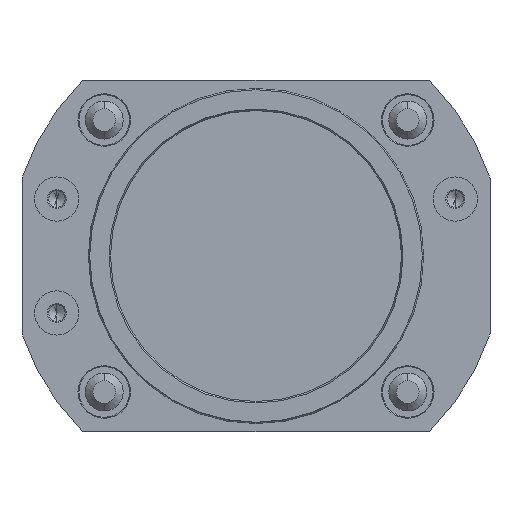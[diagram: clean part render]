
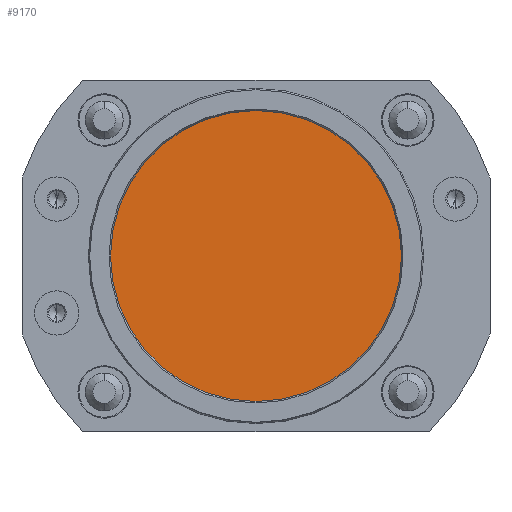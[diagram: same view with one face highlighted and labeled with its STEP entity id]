
A CAD part, front view. The second image highlights one B-rep face of the part: STEP entity #9170.
In plain terms, the highlighted planar face has unit normal (0, -1, 0).
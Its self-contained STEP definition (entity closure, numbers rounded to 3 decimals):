
#160 = ORIENTED_EDGE ( 'NONE', *, *, #7715, .F. ) ;
#164 = EDGE_CURVE ( 'NONE', #7716, #8705, #254, .T. ) ;
#166 = ORIENTED_EDGE ( 'NONE', *, *, #164, .F. ) ;
#232 = DIRECTION ( 'NONE',  ( 0., 0., 1. ) ) ;
#233 = DIRECTION ( 'NONE',  ( 0., 1., 0. ) ) ;
#234 = AXIS2_PLACEMENT_3D ( 'NONE', #247, #233, #232 ) ;
#247 = CARTESIAN_POINT ( 'NONE',  ( 0., 3., 0. ) ) ;
#254 = CIRCLE ( 'NONE', #234, 23. ) ;
#1182 = CARTESIAN_POINT ( 'NONE',  ( 0., 3., 23. ) ) ;
#1183 = DIRECTION ( 'NONE',  ( 0., 0., 1. ) ) ;
#1184 = DIRECTION ( 'NONE',  ( 0., 1., 0. ) ) ;
#1185 = CARTESIAN_POINT ( 'NONE',  ( 0., 3., 0. ) ) ;
#1195 = CIRCLE ( 'NONE', #1199, 23. ) ;
#1199 = AXIS2_PLACEMENT_3D ( 'NONE', #1185, #1184, #1183 ) ;
#3291 = CARTESIAN_POINT ( 'NONE',  ( 0., 3., -23. ) ) ;
#4361 = FACE_OUTER_BOUND ( 'NONE', #7774, .T. ) ;
#4391 = PLANE ( 'NONE',  #4426 ) ;
#4416 = DIRECTION ( 'NONE',  ( 0., 0., -1. ) ) ;
#4417 = DIRECTION ( 'NONE',  ( 0., -1., 0. ) ) ;
#4425 = CARTESIAN_POINT ( 'NONE',  ( 0., 3., 0. ) ) ;
#4426 = AXIS2_PLACEMENT_3D ( 'NONE', #4425, #4417, #4416 ) ;
#7715 = EDGE_CURVE ( 'NONE', #8705, #7716, #1195, .T. ) ;
#7716 = VERTEX_POINT ( 'NONE', #1182 ) ;
#7774 = EDGE_LOOP ( 'NONE', ( #166, #160 ) ) ;
#8705 = VERTEX_POINT ( 'NONE', #3291 ) ;
#9170 = ADVANCED_FACE ( 'NONE', ( #4361 ), #4391, .T. ) ;
